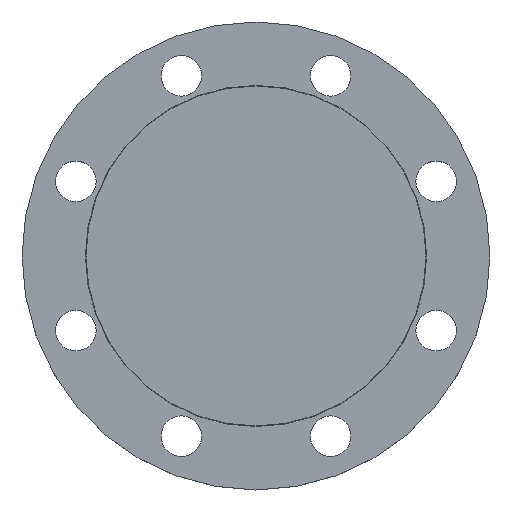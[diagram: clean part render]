
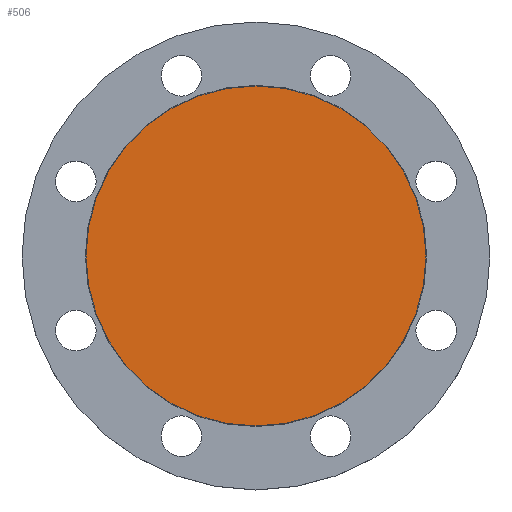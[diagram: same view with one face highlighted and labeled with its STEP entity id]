
A CAD part, top view. The second image highlights one B-rep face of the part: STEP entity #506.
In plain terms, the highlighted planar face has unit normal (0, 0, 1).
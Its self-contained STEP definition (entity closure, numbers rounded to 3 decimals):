
#34 = CARTESIAN_POINT ( 'NONE',  ( -109., 0., 0. ) ) ;
#61 = DIRECTION ( 'NONE',  ( -1., 0., 0. ) ) ;
#75 = EDGE_CURVE ( 'NONE', #382, #159, #221, .T. ) ;
#91 = CARTESIAN_POINT ( 'NONE',  ( 0., 0., 0. ) ) ;
#128 = CARTESIAN_POINT ( 'NONE',  ( 0., 0., 0. ) ) ;
#159 = VERTEX_POINT ( 'NONE', #354 ) ;
#169 = ORIENTED_EDGE ( 'NONE', *, *, #258, .F. ) ;
#221 = CIRCLE ( 'NONE', #500, 109. ) ;
#258 = EDGE_CURVE ( 'NONE', #159, #382, #294, .T. ) ;
#294 = CIRCLE ( 'NONE', #399, 109. ) ;
#309 = EDGE_LOOP ( 'NONE', ( #721, #169 ) ) ;
#354 = CARTESIAN_POINT ( 'NONE',  ( 109., 0., 0. ) ) ;
#363 = DIRECTION ( 'NONE',  ( 0., 0., -1. ) ) ;
#382 = VERTEX_POINT ( 'NONE', #34 ) ;
#398 = DIRECTION ( 'NONE',  ( 0., 0., 1. ) ) ;
#399 = AXIS2_PLACEMENT_3D ( 'NONE', #91, #363, #609 ) ;
#401 = AXIS2_PLACEMENT_3D ( 'NONE', #128, #398, #641 ) ;
#403 = CARTESIAN_POINT ( 'NONE',  ( 0., 0., 0. ) ) ;
#467 = FACE_OUTER_BOUND ( 'NONE', #309, .T. ) ;
#500 = AXIS2_PLACEMENT_3D ( 'NONE', #403, #647, #61 ) ;
#506 = ADVANCED_FACE ( 'NONE', ( #467 ), #694, .T. ) ;
#609 = DIRECTION ( 'NONE',  ( -1., 0., 0. ) ) ;
#641 = DIRECTION ( 'NONE',  ( 1., 0., 0. ) ) ;
#647 = DIRECTION ( 'NONE',  ( 0., 0., -1. ) ) ;
#694 = PLANE ( 'NONE',  #401 ) ;
#721 = ORIENTED_EDGE ( 'NONE', *, *, #75, .F. ) ;
